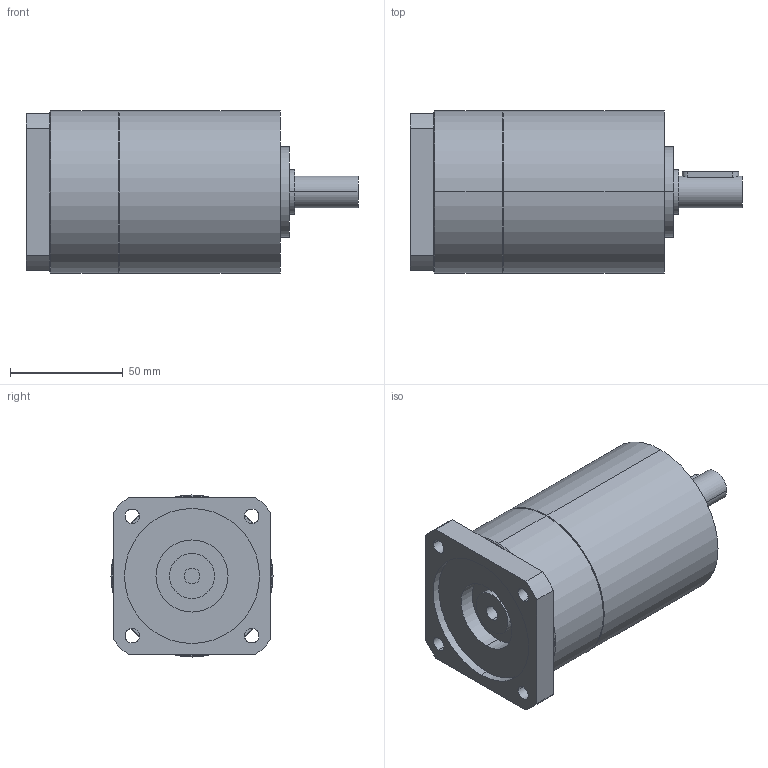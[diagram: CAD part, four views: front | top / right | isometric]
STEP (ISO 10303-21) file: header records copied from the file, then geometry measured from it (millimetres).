
FILE_DESCRIPTION(('CoCreate Modeling STEP Export'),'2;1');
FILE_NAME('GPT75_ig-9-12-16-20-25-28-35-40-50-70-100_14_B14T_7_P04.stp','2014-08-27T13:23:09',(''),(''),'CoCreate Modeling STEP processor for AP214 (Solid Model)','CoCreate Modeling 16.00C 25-Feb-2009 (C) Parametric Technology GmbH','');
FILE_SCHEMA(('AUTOMOTIVE_DESIGN { 1 0 10303 214 1 1 1 1 }'));
Length unit declared in the file: millimetre
Products named in the file (2): GPT75_ig-9-12-16-20-25-28-35-40-50-70-100_14_B14T_7_P04
Assembly tree (1 placements, depth 2):
  GPT75_ig-9-12-16-20-25-28-35-40-50-70-100_14_B14T_7_P04
    GPT75_ig-9-12-16-20-25-28-35-40-50-70-100_14_B14T_7_P04
Bounding box: 147.5 x 72 x 72 mm (x, y, z)
Volume: 460149.1 mm3; surface area: 41693.3 mm2
Topology: 1 solids, 1 shells, 80 faces, 192 edges, 123 vertices
Faces by surface type: cylinder 42, plane 34, cone 4
Entity records: 2323 total; most frequent: CARTESIAN_POINT 683, ORIENTED_EDGE 384, DIRECTION 276, EDGE_CURVE 192, VERTEX_POINT 123, AXIS2_PLACEMENT_3D 104, EDGE_LOOP 97, FACE_OUTER_BOUND 80
